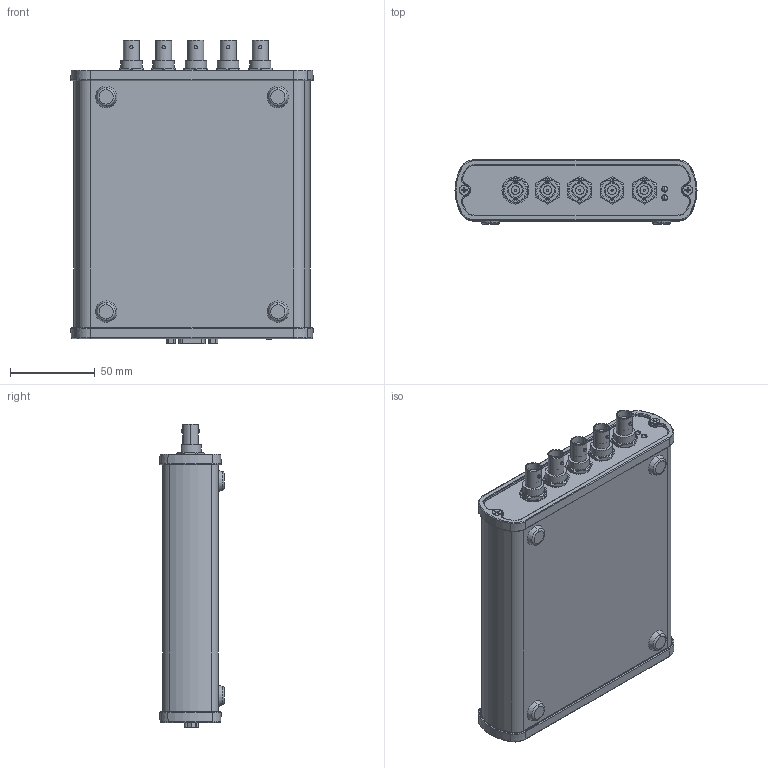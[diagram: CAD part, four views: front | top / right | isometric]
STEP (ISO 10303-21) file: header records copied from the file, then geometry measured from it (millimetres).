
FILE_DESCRIPTION((''),'2;1');
FILE_NAME('CU_USB-4431_4432','2012-11-28T',('dkendric'),(''),'PRO/ENGINEER BY PARAMETRIC TECHNOLOGY CORPORATION, 2011490','PRO/ENGINEER BY PARAMETRIC TECHNOLOGY CORPORATION, 2011490','');
FILE_SCHEMA(('CONFIG_CONTROL_DESIGN'));
Length unit declared in the file: inch
Products named in the file (1): CU_USB-4431_4432
Bounding box: 143.21 x 38 x 179.32 mm (x, y, z)
Volume: 207849.9 mm3; surface area: 146122.7 mm2
Topology: 3 solids, 4 shells, 1237 faces, 3112 edges, 1874 vertices
Faces by surface type: plane 499, cylinder 334, cone 164, torus 134, bspline 100, sphere 6
Entity records: 40493 total; most frequent: CARTESIAN_POINT 11030, DIRECTION 6263, ORIENTED_EDGE 6008, EDGE_CURVE 3004, AXIS2_PLACEMENT_3D 2324, VERTEX_POINT 1969, VECTOR 1615, LINE 1615
